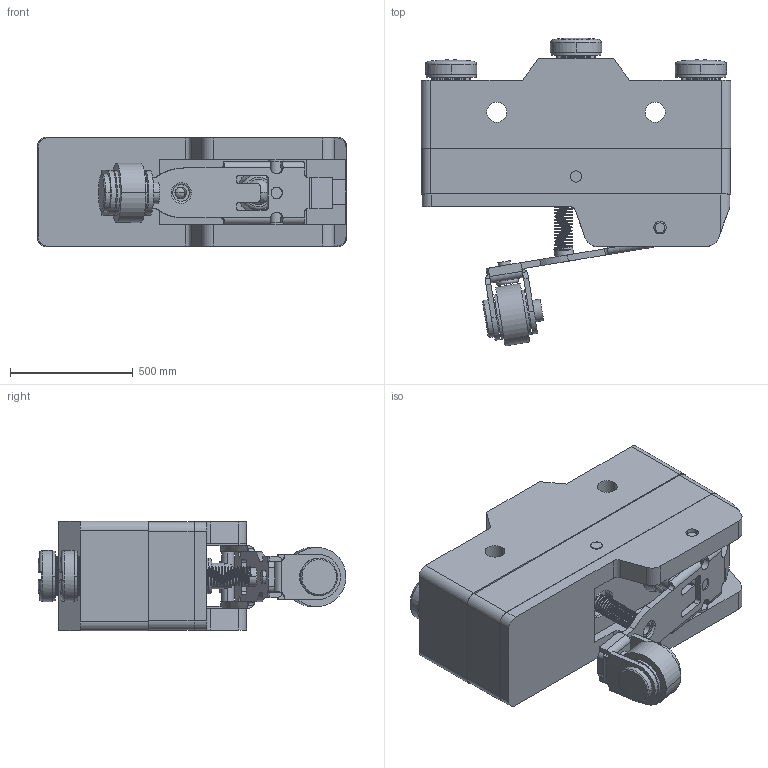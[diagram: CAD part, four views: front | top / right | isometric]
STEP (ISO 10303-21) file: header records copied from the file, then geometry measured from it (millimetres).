
FILE_DESCRIPTION((''),'2;1');
FILE_NAME('ASM0006_ASM','2016-08-17T',('ABS'),(''),'PRO/ENGINEER BY PARAMETRIC TECHNOLOGY CORPORATION, 2012360','PRO/ENGINEER BY PARAMETRIC TECHNOLOGY CORPORATION, 2012360','');
FILE_SCHEMA(('CONFIG_CONTROL_DESIGN'));
Length unit declared in the file: inch
Products named in the file (3): 2; 1; ASM0006_ASM
Assembly tree (2 placements, depth 2):
  ASM0006_ASM
    2
    1
Bounding box: 1259.84 x 1252.36 x 447.04 mm (x, y, z)
Volume: 253335333.8 mm3; surface area: 8654778.9 mm2
Topology: 4 solids, 17 shells, 1124 faces, 3192 edges, 2108 vertices
Faces by surface type: cylinder 593, plane 365, bspline 71, torus 42, cone 32, sphere 21
Entity records: 48562 total; most frequent: CARTESIAN_POINT 19187, ORIENTED_EDGE 6358, DIRECTION 6050, EDGE_CURVE 3179, AXIS2_PLACEMENT_3D 2299, VERTEX_POINT 2108, VECTOR 1452, LINE 1452
